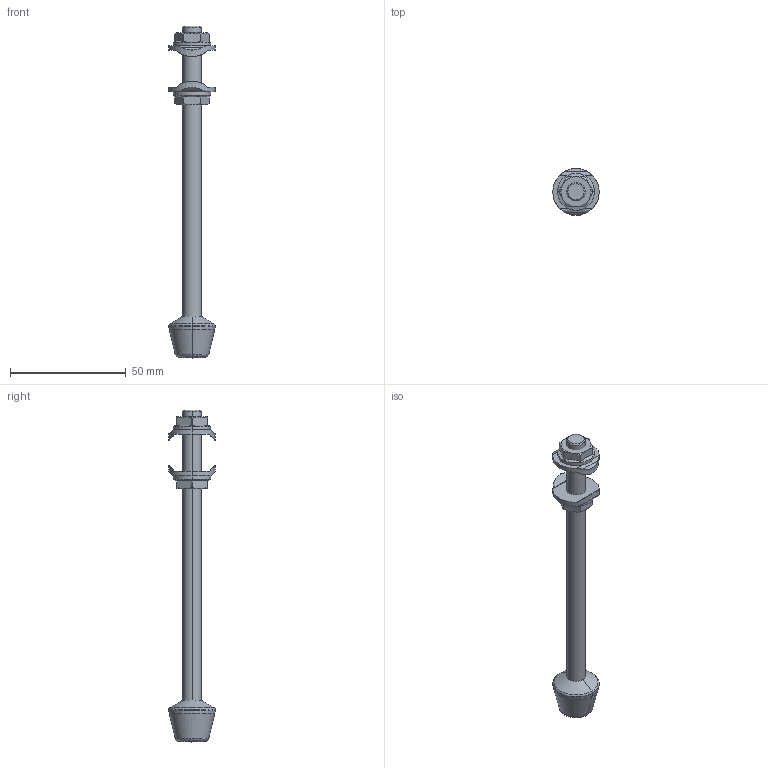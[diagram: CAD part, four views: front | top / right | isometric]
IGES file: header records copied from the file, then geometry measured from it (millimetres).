
Start section: 3D InterOp IGES (v. 2020 1.0.1), Spatial Corp. Copyright (c) 1999-2017.
Global section: file name: 911-3-c2.igs; native system: Spatial Corp.; preprocessor: 3D InterOp ACIS/IGES; author: TraceParts; organization: TraceParts S.A.; date: 20231203.154140; units: millimetre
Bounding box: 20 x 20 x 143.41 mm (x, y, z)
Surface area: 7273.7 mm2 (no closed solid volume)
Topology: 0 solids, 0 shells, 91 faces, 434 edges, 432 vertices
Faces by surface type: revolution 60, extrusion 29, bspline 2
